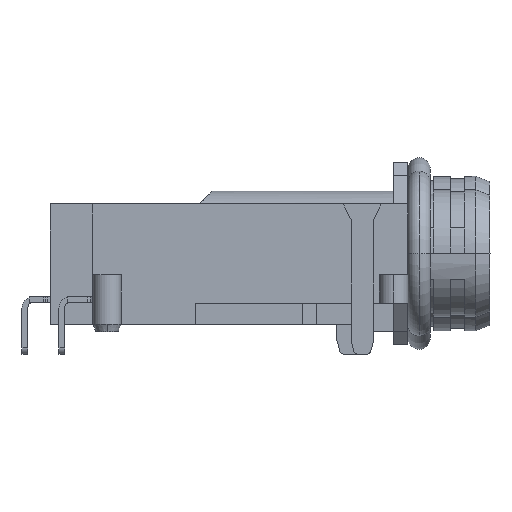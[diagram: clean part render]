
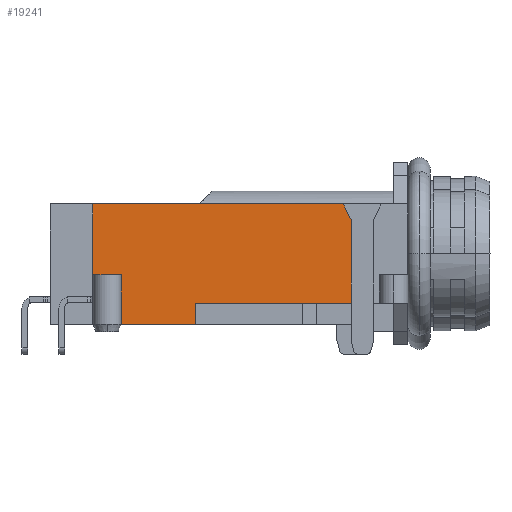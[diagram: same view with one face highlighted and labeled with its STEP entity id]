
A CAD part, left-side view. The second image highlights one B-rep face of the part: STEP entity #19241.
In plain terms, the highlighted planar face has unit normal (-1, 0, 0).
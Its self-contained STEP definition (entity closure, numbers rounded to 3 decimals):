
#113 = EDGE_CURVE ( 'NONE', #11859, #30447, #19656, .T. ) ;
#631 = VERTEX_POINT ( 'NONE', #22883 ) ;
#2110 = VECTOR ( 'NONE', #21653, 1000. ) ;
#2216 = DIRECTION ( 'NONE',  ( 0., 0., -1. ) ) ;
#2265 = CARTESIAN_POINT ( 'NONE',  ( -14.5, 10.15, -2.5 ) ) ;
#2752 = ORIENTED_EDGE ( 'NONE', *, *, #14176, .F. ) ;
#3003 = EDGE_CURVE ( 'NONE', #17388, #30447, #11902, .T. ) ;
#3605 = LINE ( 'NONE', #28561, #13007 ) ;
#3791 = CARTESIAN_POINT ( 'NONE',  ( -14.5, 4.65, -1.75 ) ) ;
#3943 = CARTESIAN_POINT ( 'NONE',  ( -14.5, 2.65, -2.5 ) ) ;
#6126 = EDGE_CURVE ( 'NONE', #21023, #32146, #21625, .T. ) ;
#6752 = VECTOR ( 'NONE', #15583, 1000. ) ;
#7514 = ORIENTED_EDGE ( 'NONE', *, *, #12928, .T. ) ;
#8343 = CARTESIAN_POINT ( 'NONE',  ( -14.5, 4.925, 1.75 ) ) ;
#8420 = EDGE_CURVE ( 'NONE', #10975, #30944, #25442, .T. ) ;
#8680 = AXIS2_PLACEMENT_3D ( 'NONE', #3943, #8709, #19064 ) ;
#8684 = ORIENTED_EDGE ( 'NONE', *, *, #32362, .F. ) ;
#8709 = DIRECTION ( 'NONE',  ( -1., 0., 0. ) ) ;
#9018 = DIRECTION ( 'NONE',  ( 0., 1., 0. ) ) ;
#9094 = EDGE_LOOP ( 'NONE', ( #16657, #7514, #2752, #8684, #27878, #28569, #26489, #22156, #23034 ) ) ;
#9139 = EDGE_CURVE ( 'NONE', #11859, #10975, #19838, .T. ) ;
#10234 = VERTEX_POINT ( 'NONE', #21353 ) ;
#10412 = VECTOR ( 'NONE', #28609, 1000. ) ;
#10975 = VERTEX_POINT ( 'NONE', #11072 ) ;
#11072 = CARTESIAN_POINT ( 'NONE',  ( -14.5, 10.15, -1.75 ) ) ;
#11268 = CARTESIAN_POINT ( 'NONE',  ( -14.5, 10.15, -2.5 ) ) ;
#11859 = VERTEX_POINT ( 'NONE', #11268 ) ;
#11902 = LINE ( 'NONE', #21932, #31835 ) ;
#12928 = EDGE_CURVE ( 'NONE', #21023, #631, #3605, .T. ) ;
#13007 = VECTOR ( 'NONE', #9018, 1000. ) ;
#14176 = EDGE_CURVE ( 'NONE', #10234, #631, #26488, .T. ) ;
#14621 = CARTESIAN_POINT ( 'NONE',  ( -14.5, 12.75, -2.5 ) ) ;
#14784 = VECTOR ( 'NONE', #20475, 1000. ) ;
#15583 = DIRECTION ( 'NONE',  ( 0., -1., 0. ) ) ;
#16050 = VECTOR ( 'NONE', #25956, 1000. ) ;
#16657 = ORIENTED_EDGE ( 'NONE', *, *, #6126, .F. ) ;
#16720 = CARTESIAN_POINT ( 'NONE',  ( -14.5, 10.15, -2.5 ) ) ;
#17388 = VERTEX_POINT ( 'NONE', #32259 ) ;
#19064 = DIRECTION ( 'NONE',  ( 0., 0., 1. ) ) ;
#19079 = CARTESIAN_POINT ( 'NONE',  ( -14.5, 4.65, 1.2 ) ) ;
#19241 = ADVANCED_FACE ( 'NONE', ( #31206 ), #23838, .T. ) ;
#19656 = LINE ( 'NONE', #16720, #2110 ) ;
#19830 = VECTOR ( 'NONE', #24297, 1000. ) ;
#19838 = LINE ( 'NONE', #2265, #19830 ) ;
#20306 = CARTESIAN_POINT ( 'NONE',  ( -14.5, 4.65, -1.75 ) ) ;
#20315 = CARTESIAN_POINT ( 'NONE',  ( -14.5, 12.75, -0.75 ) ) ;
#20475 = DIRECTION ( 'NONE',  ( 0., 1., 0. ) ) ;
#20616 = EDGE_CURVE ( 'NONE', #30944, #32146, #25633, .T. ) ;
#20899 = CARTESIAN_POINT ( 'NONE',  ( -14.5, 13.75, -0.75 ) ) ;
#21023 = VERTEX_POINT ( 'NONE', #8343 ) ;
#21353 = CARTESIAN_POINT ( 'NONE',  ( -14.5, 13.75, -0.75 ) ) ;
#21625 = LINE ( 'NONE', #23930, #26008 ) ;
#21653 = DIRECTION ( 'NONE',  ( 0., 1., 0. ) ) ;
#21932 = CARTESIAN_POINT ( 'NONE',  ( -14.5, 12.75, -0.75 ) ) ;
#22156 = ORIENTED_EDGE ( 'NONE', *, *, #8420, .T. ) ;
#22883 = CARTESIAN_POINT ( 'NONE',  ( -14.5, 13.75, 1.75 ) ) ;
#23034 = ORIENTED_EDGE ( 'NONE', *, *, #20616, .T. ) ;
#23262 = LINE ( 'NONE', #20315, #14784 ) ;
#23838 = PLANE ( 'NONE',  #8680 ) ;
#23930 = CARTESIAN_POINT ( 'NONE',  ( -14.5, 4.925, 1.75 ) ) ;
#24297 = DIRECTION ( 'NONE',  ( 0., 0., 1. ) ) ;
#25442 = LINE ( 'NONE', #28236, #6752 ) ;
#25633 = LINE ( 'NONE', #3791, #16050 ) ;
#25956 = DIRECTION ( 'NONE',  ( 0., 0., 1. ) ) ;
#26008 = VECTOR ( 'NONE', #31472, 1000. ) ;
#26488 = LINE ( 'NONE', #20899, #10412 ) ;
#26489 = ORIENTED_EDGE ( 'NONE', *, *, #9139, .T. ) ;
#27878 = ORIENTED_EDGE ( 'NONE', *, *, #3003, .T. ) ;
#28236 = CARTESIAN_POINT ( 'NONE',  ( -14.5, 10.15, -1.75 ) ) ;
#28561 = CARTESIAN_POINT ( 'NONE',  ( -14.5, 4.925, 1.75 ) ) ;
#28569 = ORIENTED_EDGE ( 'NONE', *, *, #113, .F. ) ;
#28609 = DIRECTION ( 'NONE',  ( 0., 0., 1. ) ) ;
#30447 = VERTEX_POINT ( 'NONE', #14621 ) ;
#30944 = VERTEX_POINT ( 'NONE', #20306 ) ;
#31206 = FACE_OUTER_BOUND ( 'NONE', #9094, .T. ) ;
#31472 = DIRECTION ( 'NONE',  ( 0., -0.447, -0.894 ) ) ;
#31835 = VECTOR ( 'NONE', #2216, 1000. ) ;
#32146 = VERTEX_POINT ( 'NONE', #19079 ) ;
#32259 = CARTESIAN_POINT ( 'NONE',  ( -14.5, 12.75, -0.75 ) ) ;
#32362 = EDGE_CURVE ( 'NONE', #17388, #10234, #23262, .T. ) ;
